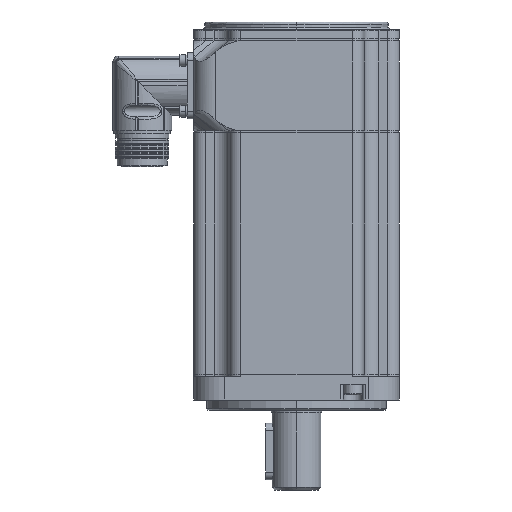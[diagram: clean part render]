
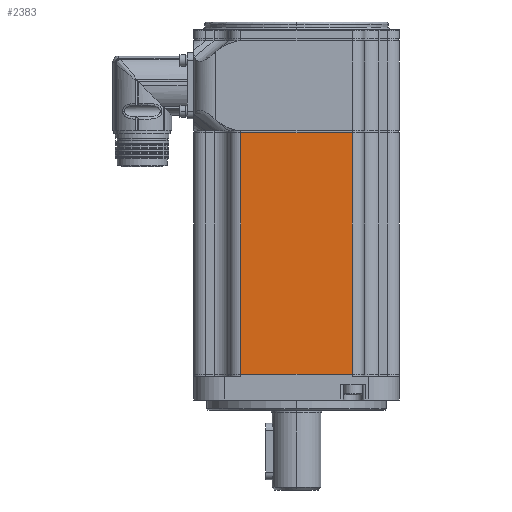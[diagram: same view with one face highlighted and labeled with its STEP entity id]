
A CAD part, left-side view. The second image highlights one B-rep face of the part: STEP entity #2383.
In plain terms, the highlighted planar face has unit normal (-1, 0, 0).
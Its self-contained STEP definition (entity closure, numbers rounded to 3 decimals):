
#2378 = EDGE_CURVE ( 'NONE', #2404, #2379, #13195, .T. ) ;
#2379 = VERTEX_POINT ( 'NONE', #13191 ) ;
#2383 = ADVANCED_FACE ( 'NONE', ( #13256 ), #13250, .F. ) ;
#2384 = EDGE_LOOP ( 'NONE', ( #2385, #2443, #2445, #2446 ) ) ;
#2385 = ORIENTED_EDGE ( 'NONE', *, *, #2386, .F. ) ;
#2386 = EDGE_CURVE ( 'NONE', #2387, #2388, #13249, .T. ) ;
#2387 = VERTEX_POINT ( 'NONE', #13241 ) ;
#2388 = VERTEX_POINT ( 'NONE', #13240 ) ;
#2404 = VERTEX_POINT ( 'NONE', #13274 ) ;
#2443 = ORIENTED_EDGE ( 'NONE', *, *, #2444, .T. ) ;
#2444 = EDGE_CURVE ( 'NONE', #2387, #2379, #13320, .T. ) ;
#2445 = ORIENTED_EDGE ( 'NONE', *, *, #2378, .F. ) ;
#2446 = ORIENTED_EDGE ( 'NONE', *, *, #2447, .F. ) ;
#2447 = EDGE_CURVE ( 'NONE', #2388, #2404, #13380, .T. ) ;
#13191 = CARTESIAN_POINT ( 'NONE',  ( -40., 21.75, 103.9 ) ) ;
#13192 = DIRECTION ( 'NONE',  ( 0., 0., 1. ) ) ;
#13193 = VECTOR ( 'NONE', #13192, 1000. ) ;
#13194 = CARTESIAN_POINT ( 'NONE',  ( -40., 21.75, 103.9 ) ) ;
#13195 = LINE ( 'NONE', #13194, #13193 ) ;
#13240 = CARTESIAN_POINT ( 'NONE',  ( -40., -21.75, 10. ) ) ;
#13241 = CARTESIAN_POINT ( 'NONE',  ( -40., -21.75, 103.9 ) ) ;
#13242 = DIRECTION ( 'NONE',  ( 0., 0., -1. ) ) ;
#13243 = VECTOR ( 'NONE', #13242, 1000. ) ;
#13244 = CARTESIAN_POINT ( 'NONE',  ( -40., -21.75, 103.9 ) ) ;
#13245 = DIRECTION ( 'NONE',  ( 0., 0., -1. ) ) ;
#13246 = DIRECTION ( 'NONE',  ( 1., 0., 0. ) ) ;
#13247 = CARTESIAN_POINT ( 'NONE',  ( -40., -26.25, 103.9 ) ) ;
#13248 = AXIS2_PLACEMENT_3D ( 'NONE', #13247, #13246, #13245 ) ;
#13249 = LINE ( 'NONE', #13244, #13243 ) ;
#13250 = PLANE ( 'NONE',  #13248 ) ;
#13256 = FACE_OUTER_BOUND ( 'NONE', #2384, .T. ) ;
#13274 = CARTESIAN_POINT ( 'NONE',  ( -40., 21.75, 10. ) ) ;
#13317 = DIRECTION ( 'NONE',  ( 0., 1., 0. ) ) ;
#13318 = VECTOR ( 'NONE', #13317, 1000. ) ;
#13319 = CARTESIAN_POINT ( 'NONE',  ( -40., -32.05, 103.9 ) ) ;
#13320 = LINE ( 'NONE', #13319, #13318 ) ;
#13377 = DIRECTION ( 'NONE',  ( 0., 1., 0. ) ) ;
#13378 = VECTOR ( 'NONE', #13377, 1000. ) ;
#13379 = CARTESIAN_POINT ( 'NONE',  ( -40., -32.05, 10. ) ) ;
#13380 = LINE ( 'NONE', #13379, #13378 ) ;
